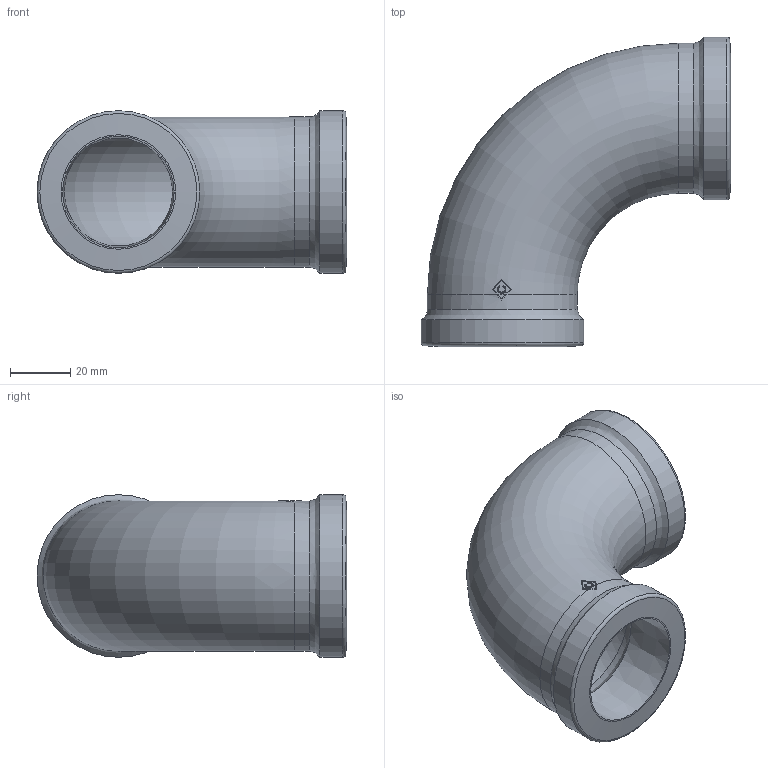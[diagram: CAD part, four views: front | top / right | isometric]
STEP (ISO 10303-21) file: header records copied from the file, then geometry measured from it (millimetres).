
FILE_DESCRIPTION((''),'2;1');
FILE_NAME('P:\Fastrack\53909_CRANE\Crane\Fig.193 Bend\New 1.25 inch\193-1.25.stp','2009-09-17T09:52:47',('btaylor'),(''),'Autodesk Inventor 2008','Autodesk Inventor 2008','');
FILE_SCHEMA(('AUTOMOTIVE_DESIGN { 1 0 10303 214 1 1 1 1 }'));
Length unit declared in the file: millimetre
Products named in the file (1): 193-1.25
Bounding box: 103.05 x 103.05 x 54.1 mm (x, y, z)
Volume: 92259.6 mm3; surface area: 38882.7 mm2
Topology: 1 solids, 1 shells, 41 faces, 110 edges, 72 vertices
Faces by surface type: plane 12, bspline 12, torus 7, cylinder 6, cone 4
Full cylindrical faces by diameter (mm): 49.9 x2, 54.1 x2
Entity records: 2790 total; most frequent: CARTESIAN_POINT 1896, ORIENTED_EDGE 182, DIRECTION 144, EDGE_CURVE 91, VERTEX_POINT 67, AXIS2_PLACEMENT_3D 63, EDGE_LOOP 58, FACE_OUTER_BOUND 41
